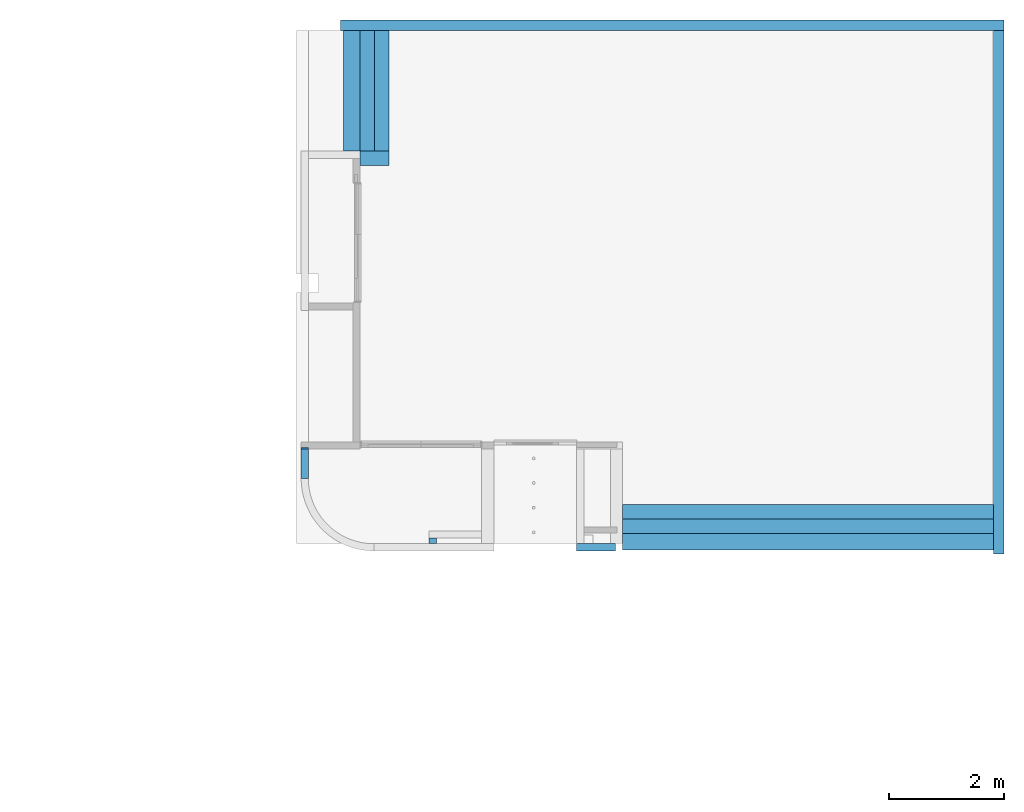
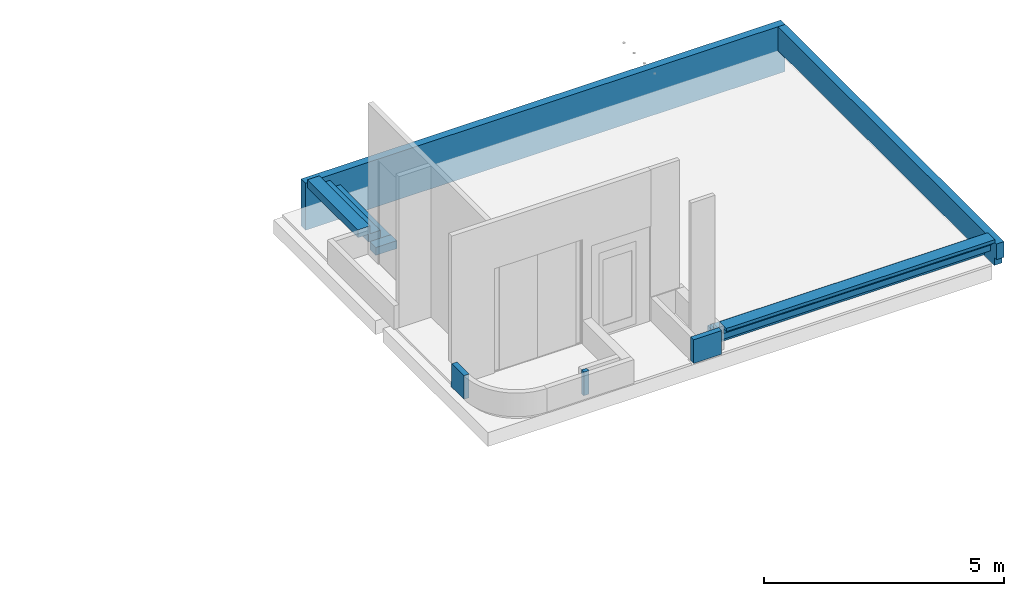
# One storey, part 2 of 6: 5 walls, 3 stairs, 3 elements without a shape of their own.
"""IFC2X3 building model written with IfcOpenShell, lengths in millimetres."""

from ifc_helpers import new_model, entity, si_unit, converted_unit, derived_unit, direction, frame, frame_2d, origin, place, context, subcontext, project, spatial, polyline, rectangle, outline, extrude, faceted_brep, material, layer, layer_set, layer_usage, type_object, element, aggregate, save


model = new_model("IFC2X3")

# Units and contexts
model_context = context("Model", 3, precision=0.01, world=origin(), true_north=direction((6.123031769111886e-17, 1.0)))
body_context = subcontext(model_context, "Body", "Model", "MODEL_VIEW")
ifc_project = project(units=[si_unit("LENGTHUNIT", "METRE", prefix="MILLI"), si_unit("AREAUNIT", "SQUARE_METRE"), si_unit("VOLUMEUNIT", "CUBIC_METRE"), converted_unit("PLANEANGLEUNIT", "DEGREE", entity("IfcRatioMeasure", 0.017453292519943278), si_unit("PLANEANGLEUNIT", "RADIAN"), dimensions=[0, 0, 0, 0, 0, 0, 0]), si_unit("MASSUNIT", "GRAM", prefix="KILO"), derived_unit("MASSDENSITYUNIT", [(si_unit("MASSUNIT", "GRAM", prefix="KILO"), 1), (si_unit("LENGTHUNIT", "METRE"), -3)]), derived_unit("IONCONCENTRATIONUNIT", [(si_unit("MASSUNIT", "GRAM", prefix="KILO"), 1), (si_unit("LENGTHUNIT", "METRE"), -3)]), derived_unit("MOMENTOFINERTIAUNIT", [(si_unit("LENGTHUNIT", "METRE"), 4)]), si_unit("TIMEUNIT", "SECOND"), si_unit("FREQUENCYUNIT", "HERTZ"), si_unit("THERMODYNAMICTEMPERATUREUNIT", "DEGREE_CELSIUS"), derived_unit("THERMALTRANSMITTANCEUNIT", [(si_unit("MASSUNIT", "GRAM", prefix="KILO"), 1), (si_unit("THERMODYNAMICTEMPERATUREUNIT", "KELVIN"), -1), (si_unit("TIMEUNIT", "SECOND"), -3)]), derived_unit("THERMALCONDUCTANCEUNIT", [(si_unit("MASSUNIT", "GRAM", prefix="KILO"), 1), (si_unit("THERMODYNAMICTEMPERATUREUNIT", "KELVIN"), -1), (si_unit("TIMEUNIT", "SECOND"), -3), (si_unit("LENGTHUNIT", "METRE"), 1)]), derived_unit("VOLUMETRICFLOWRATEUNIT", [(si_unit("LENGTHUNIT", "METRE"), 3), (si_unit("TIMEUNIT", "SECOND"), -1)]), derived_unit("MASSFLOWRATEUNIT", [(si_unit("MASSUNIT", "GRAM", prefix="KILO"), 1), (si_unit("TIMEUNIT", "SECOND"), -1)]), derived_unit("ROTATIONALFREQUENCYUNIT", [(si_unit("TIMEUNIT", "SECOND"), -1)]), si_unit("ELECTRICCURRENTUNIT", "AMPERE"), si_unit("ELECTRICVOLTAGEUNIT", "VOLT"), si_unit("POWERUNIT", "WATT"), si_unit("FORCEUNIT", "NEWTON", prefix="KILO"), si_unit("ILLUMINANCEUNIT", "LUX"), si_unit("LUMINOUSFLUXUNIT", "LUMEN"), si_unit("LUMINOUSINTENSITYUNIT", "CANDELA"), derived_unit("USERDEFINED", [(si_unit("MASSUNIT", "GRAM", prefix="KILO"), -1), (si_unit("LENGTHUNIT", "METRE"), -2), (si_unit("TIMEUNIT", "SECOND"), 3), (si_unit("LUMINOUSFLUXUNIT", "LUMEN"), 1)]), derived_unit("USERDEFINED", [(si_unit("MASSUNIT", "GRAM", prefix="KILO"), 1), (si_unit("TIMEUNIT", "SECOND"), -3), (si_unit("LENGTHUNIT", "METRE"), 3), (si_unit("ELECTRICCURRENTUNIT", "AMPERE"), -2)]), derived_unit("SOUNDPOWERUNIT", [(si_unit("MASSUNIT", "GRAM", prefix="KILO"), 1), (si_unit("TIMEUNIT", "SECOND"), -3), (si_unit("LENGTHUNIT", "METRE"), 2)]), derived_unit("SOUNDPRESSUREUNIT", [(si_unit("MASSUNIT", "GRAM", prefix="KILO"), 1), (si_unit("LENGTHUNIT", "METRE"), -1), (si_unit("TIMEUNIT", "SECOND"), -2)]), derived_unit("LINEARVELOCITYUNIT", [(si_unit("LENGTHUNIT", "METRE"), 1), (si_unit("TIMEUNIT", "SECOND"), -1)]), si_unit("PRESSUREUNIT", "PASCAL"), derived_unit("USERDEFINED", [(si_unit("MASSUNIT", "GRAM", prefix="KILO"), 1), (si_unit("LENGTHUNIT", "METRE"), -2), (si_unit("TIMEUNIT", "SECOND"), -2)]), derived_unit("LINEARFORCEUNIT", [(si_unit("MASSUNIT", "GRAM", prefix="KILO"), 1), (si_unit("TIMEUNIT", "SECOND"), -2)]), derived_unit("PLANARFORCEUNIT", [(si_unit("MASSUNIT", "GRAM", prefix="KILO"), 1), (si_unit("LENGTHUNIT", "METRE"), -1), (si_unit("TIMEUNIT", "SECOND"), -2)]), derived_unit("SPECIFICHEATCAPACITYUNIT", [(si_unit("THERMODYNAMICTEMPERATUREUNIT", "KELVIN"), -1), (si_unit("LENGTHUNIT", "METRE"), 2), (si_unit("TIMEUNIT", "SECOND"), -2)]), derived_unit("HEATINGVALUEUNIT", [(si_unit("LENGTHUNIT", "METRE"), 2), (si_unit("TIMEUNIT", "SECOND"), -2)]), derived_unit("VAPORPERMEABILITYUNIT", [(si_unit("LENGTHUNIT", "METRE"), -1), (si_unit("TIMEUNIT", "SECOND"), 1)]), derived_unit("DYNAMICVISCOSITYUNIT", [(si_unit("MASSUNIT", "GRAM", prefix="KILO"), 1), (si_unit("TIMEUNIT", "SECOND"), -1), (si_unit("LENGTHUNIT", "METRE"), -1)]), derived_unit("THERMALEXPANSIONCOEFFICIENTUNIT", [(si_unit("THERMODYNAMICTEMPERATUREUNIT", "KELVIN"), -1)]), derived_unit("MODULUSOFELASTICITYUNIT", [(si_unit("MASSUNIT", "GRAM", prefix="KILO"), 1), (si_unit("LENGTHUNIT", "METRE"), -1), (si_unit("TIMEUNIT", "SECOND"), -2)]), derived_unit("ISOTHERMALMOISTURECAPACITYUNIT", [(si_unit("LENGTHUNIT", "METRE"), 3), (si_unit("MASSUNIT", "GRAM", prefix="KILO"), -1)]), derived_unit("MOISTUREDIFFUSIVITYUNIT", [(si_unit("TIMEUNIT", "SECOND"), -1), (si_unit("LENGTHUNIT", "METRE"), 2)])], contexts=[model_context])

# Site, building, storey
site_placement = place(None, frame((0.0, 300.0, 0.0)))
site = spatial("IfcSite", under=ifc_project, at=site_placement, Name="<Kadastrale nummers>", CompositionType="ELEMENT")
building_placement = place(site_placement, origin())
building = spatial("IfcBuilding", under=site, at=building_placement, CompositionType="ELEMENT")
storey_placement = place(building_placement, frame((0.0, 0.0, -600.0)))
storey = spatial("IfcBuildingStorey", under=building, at=storey_placement, Name="-1 Speelvloer", CompositionType="ELEMENT", Elevation=-599.9999999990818)

# Walls
ifc_material_1 = material(Name="ISR_Gips")
ifc_layer_1 = layer(ifc_material_1, 1.0)
ifc_material_2 = material(Name="ISR_Binnenwand")
ifc_layer_2 = layer(ifc_material_2, 123.0)
ifc_layer_3 = layer(ifc_material_1, 1.0)
ifc_layer_set_1 = layer_set([ifc_layer_1, ifc_layer_2, ifc_layer_3], Name="Basic Wall:22_DAT_binnenwand_125")
wall_type_1 = type_object("IfcWallType", Name="Basic Wall:22_DAT_binnenwand_125", PredefinedType="STANDARD", material=ifc_layer_set_1)
wall_1_placement = place(storey_placement, frame((36522.53993788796, 42447.12500267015, 0.0), z_axis=(0.0, 0.0, 1.0), x_axis=(0.0, -1.0, 0.0)))
element("IfcWall", 1, at=wall_1_placement, inside=storey, type_object=wall_type_1, Name="Basic Wall:22_DAT_binnenwand_125", ObjectType="Basic Wall:22_DAT_binnenwand_125", context=body_context, shape_type="Brep", body=[
    faceted_brep([(0.0, -62.50000000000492, 0.0), (534.6255279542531, -62.50000000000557, 0.0), (534.6255279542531, -62.50000000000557, 600.0), (27.125002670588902, -62.50000000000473, 600.0), (27.125002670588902, -62.500000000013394, 130.0), (0.0, -62.50000000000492, 130.0), (0.0, 62.49999999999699, 0.0), (0.0, 62.49999999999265, 130.0), (27.125002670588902, 62.49999999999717, 130.0), (27.125002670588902, 62.49999999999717, 600.0), (534.6255279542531, 62.499999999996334, 600.0), (534.6255279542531, 62.499999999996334, 0.0)], [[[0, 1, 2, 3, 4, 5]], [[6, 7, 8, 9, 10, 11]], [[1, 0, 6, 11]], [[2, 1, 11, 10]], [[3, 2, 10, 9]], [[4, 8, 7, 5]], [[0, 5, 7, 6]], [[4, 3, 9, 8]]]),
])
ifc_layer_usage = layer_usage(ifc_layer_set_1, "AXIS2", "NEGATIVE", 62.50000000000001)
wall_2_placement = place(storey_placement, frame((38747.49978599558, 40874.999474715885, 0.0), z_axis=(0.0, 0.0, 1.0), x_axis=(0.0, -1.0, 0.0)))
element("IfcWallStandardCase", 2, at=wall_2_placement, inside=storey, type_object=wall_type_1, material=ifc_layer_usage, Name="Basic Wall:22_DAT_binnenwand_125", ObjectType="Basic Wall:22_DAT_binnenwand_125", context=body_context, shape_type="SweptSolid", body=[
    extrude(rectangle(XDim=99.99999999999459, YDim=124.99999999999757, at=frame_2d((49.99999999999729, 0.0), x_axis=(-1.0, 0.0))), origin(), (0.0, 0.0, 1.0), 600.0000000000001),
])
wall_3_placement = place(storey_placement, frame((41250.0, 40712.499474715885, 0.0)))
element("IfcWallStandardCase", 3, at=wall_3_placement, inside=storey, type_object=wall_type_1, material=ifc_layer_usage, Name="Basic Wall:22_DAT_binnenwand_125", ObjectType="Basic Wall:22_DAT_binnenwand_125", context=body_context, shape_type="SweptSolid", body=[
    extrude(rectangle(XDim=674.9999999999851, YDim=125.00000000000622, at=frame_2d((337.49999999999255, -4.334310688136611e-13), x_axis=(-1.0, 0.0))), origin(), (0.0, 0.0, 1.0), 600.0000000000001),
])
ifc_layer_4 = layer(ifc_material_1, 1.0)
ifc_material_3 = material(Name="ISR_Beton ihwg")
ifc_layer_5 = layer(ifc_material_3, 178.0)
ifc_layer_6 = layer(ifc_material_1, 1.0)
ifc_layer_set_2 = layer_set([ifc_layer_4, ifc_layer_5, ifc_layer_6], Name="Basic Wall:28_DAT_ihw beton_180")
wall_type_2 = type_object("IfcWallType", Name="Basic Wall:28_DAT_ihw beton_180", PredefinedType="STANDARD", material=ifc_layer_set_2)
wall_4_placement = place(storey_placement, frame((48680.0, 49790.0, -670.0), z_axis=(0.0, 0.0, 1.0), x_axis=(-1.0, 0.0, 0.0)))
element("IfcWall", 4, at=wall_4_placement, inside=storey, type_object=wall_type_2, Name="Basic Wall:28_DAT_ihw beton_180", ObjectType="Basic Wall:28_DAT_ihw beton_180", context=body_context, shape_type="Brep", body=[
    faceted_brep([(5.0, -90.0, 0.0), (11532.460062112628, -90.0, 0.0), (11532.460062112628, -90.0, 1200.0), (0.0, -90.0, 1200.0), (0.0, -90.0, 600.0), (5.0, -90.0, 600.0), (5.0, 90.0, 0.0), (5.0, 90.0, 188.0), (5.0, 90.0, 600.0), (0.0, 90.0, 600.0), (0.0, 90.0, 1200.0), (92.50000000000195, 90.0, 1200.0), (180.0, 90.0, 1200.0), (2550.0, 90.0, 1200.0), (2710.0, 90.0, 1200.0), (3560.0, 90.0, 1200.0), (7185.0, 90.0, 1200.0), (7375.0, 90.0, 1200.0), (10345.0, 90.0, 1200.0), (11532.460062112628, 90.0, 1200.0), (11532.460062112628, 90.0, 800.0), (11532.460062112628, 90.0, 0.0), (11444.960062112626, 90.0, 0.0), (185.0, 90.0, 0.0), (11532.460062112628, -85.0, 0.0)], [[[0, 1, 2, 3, 4, 5]], [[6, 7, 8, 9, 10, 11, 12, 13, 14, 15, 16, 17, 18, 19, 20, 21, 22, 23]], [[1, 0, 6, 23, 22, 21, 24]], [[2, 1, 24, 21, 20, 19]], [[3, 2, 19, 18, 17, 16, 15, 14, 13, 12, 11, 10]], [[4, 9, 8, 5]], [[0, 5, 8, 7, 6]], [[4, 3, 10, 9]]]),
])
wall_5_placement = place(storey_placement, frame((48590.0, 40595.0, -70.0), z_axis=(0.0, 0.0, 1.0), x_axis=(0.0, 1.0, 0.0)))
element("IfcWall", 5, at=wall_5_placement, inside=storey, type_object=wall_type_2, Name="Basic Wall:28_DAT_ihw beton_180", ObjectType="Basic Wall:28_DAT_ihw beton_180", context=body_context, shape_type="Brep", body=[
    faceted_brep([(90.0, -90.0, 0.0), (9105.0, -90.0, 0.0), (9105.0, -90.0, 600.0), (0.0, -90.0, 600.0), (0.0, -90.0, 200.0), (90.0, -90.0, 200.0), (90.0, 90.0, 0.0), (90.0, 90.0, 200.0), (0.0, 90.0, 200.0), (0.0, 90.0, 577.5619075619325), (0.0, 90.0, 600.0), (284.9994747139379, 90.0, 600.0), (3320.0, 90.0, 600.0), (3510.0, 90.0, 600.0), (6970.0, 90.0, 600.0), (7160.0, 90.0, 600.0), (9105.0, 90.0, 600.0), (9105.0, 90.0, 0.0), (90.0, -85.0, 0.0), (9105.0, -85.0, 0.0), (9105.0, -85.0, 600.0), (90.0, -85.0, 200.0), (0.0, -85.0, 200.0)], [[[0, 1, 2, 3, 4, 5]], [[6, 7, 8, 9, 10, 11, 12, 13, 14, 15, 16, 17]], [[1, 0, 18, 6, 17, 19]], [[3, 2, 20, 16, 15, 14, 13, 12, 11, 10]], [[2, 1, 19, 17, 16, 20]], [[0, 5, 21, 7, 6, 18]], [[4, 22, 8, 7, 21, 5]], [[4, 3, 10, 9, 8, 22]]]),
])

# Stairs
stair_1_placement = place(storey_placement, origin())
stair_1 = element("IfcStair", 6, at=stair_1_placement, inside=storey, Name="Stairs 1:Stairs 1", ObjectType="Stairs 1:Stairs 1", ShapeType="NOTDEFINED")
ifc_material_4 = material(Name="ISR_Beton_prefab")
stair_2_placement = place(stair_1_placement, origin())
stair_2 = element("IfcStair", 7, at=stair_2_placement, material=ifc_material_4, Name="Stairs 1:Stairs 1", ObjectType="Stairs 1:Stairs 1", ShapeType="NOTDEFINED", context=body_context, shape_type="SweptSolid", body=[
    extrude(outline(polyline([(-275.7142857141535, -338.5714285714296), (-195.7142857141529, -338.5714285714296), (-195.7142857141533, -218.57142857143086), (-75.71428571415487, -218.57142857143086), (-75.71428571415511, -148.57142857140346), (124.28571428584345, -148.57142857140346), (124.28571428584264, 101.42857142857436), (374.2857142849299, 101.42857142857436), (374.285714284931, 451.4285714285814), (124.28571428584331, 451.4285714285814), (124.28571428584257, 201.4285714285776), (-75.71428571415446, 201.4285714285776), (-75.71428571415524, -48.57142857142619), (-275.7142857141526, -48.57142857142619), (-275.7142857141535, -338.5714285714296)])), frame((42050.0, 41003.57142857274, 324.2857142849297), z_axis=(1.0, 0.0, 0.0), x_axis=(0.0, 0.0, -1.0)), (0.0, 0.0, 1.0), 6449.999999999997),
])
aggregate(stair_1, [stair_2])

stair_3_placement = place(storey_placement, origin())
stair_3 = element("IfcStair", 8, at=stair_3_placement, inside=storey, Name="Stairs 2:Stairs 1", ObjectType="Stairs 2:Stairs 1", ShapeType="NOTDEFINED")
stair_4_placement = place(stair_3_placement, origin())
stair_4 = element("IfcStair", 9, at=stair_4_placement, material=ifc_material_4, Name="Stairs 2:Stairs 1", ObjectType="Stairs 2:Stairs 1", ShapeType="NOTDEFINED", context=body_context, shape_type="SweptSolid", body=[
    extrude(outline(polyline([(-395.0, -300.0), (-105.0, -300.0), (-105.0, -100.0), (145.0, -100.0), (145.0, 100.0), (395.0, 100.0), (395.0, 300.0), (105.0, 300.0), (105.0, 100.0), (-145.0, 100.0), (-145.0, -100.0), (-395.0, -100.0), (-395.0, -300.0)])), frame((37590.03993788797, 47600.0, 300.0), z_axis=(0.0, 1.0, 0.0), x_axis=(-1.0, 0.0, 0.0)), (0.0, 0.0, 1.0), 2099.9999999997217),
])
aggregate(stair_3, [stair_4])

stair_5_placement = place(storey_placement, origin())
stair_5 = element("IfcStair", 10, at=stair_5_placement, inside=storey, Name="Stairs 4:Stairs 4", ObjectType="Stairs 4:Stairs 4", ShapeType="NOTDEFINED")
stair_6_placement = place(stair_5_placement, origin())
stair_6 = element("IfcStair", 11, at=stair_6_placement, material=ifc_material_4, Name="Stairs 4:Stairs 4", ObjectType="Stairs 4:Stairs 4", ShapeType="NOTDEFINED", context=body_context, shape_type="SweptSolid", body=[
    extrude(rectangle(XDim=249.9999999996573, YDim=500.00000000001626, at=frame_2d((4.334310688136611e-12, 0.0), x_axis=(1.0, 0.0))), frame((37735.039937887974, 47475.0, 1.1492604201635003e-09), z_axis=(0.0, 0.0, 1.0), x_axis=(0.0, -1.0, 0.0)), (0.0, 0.0, 1.0), 199.99999999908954),
])
aggregate(stair_5, [stair_6])

save(model, "model.ifc")
